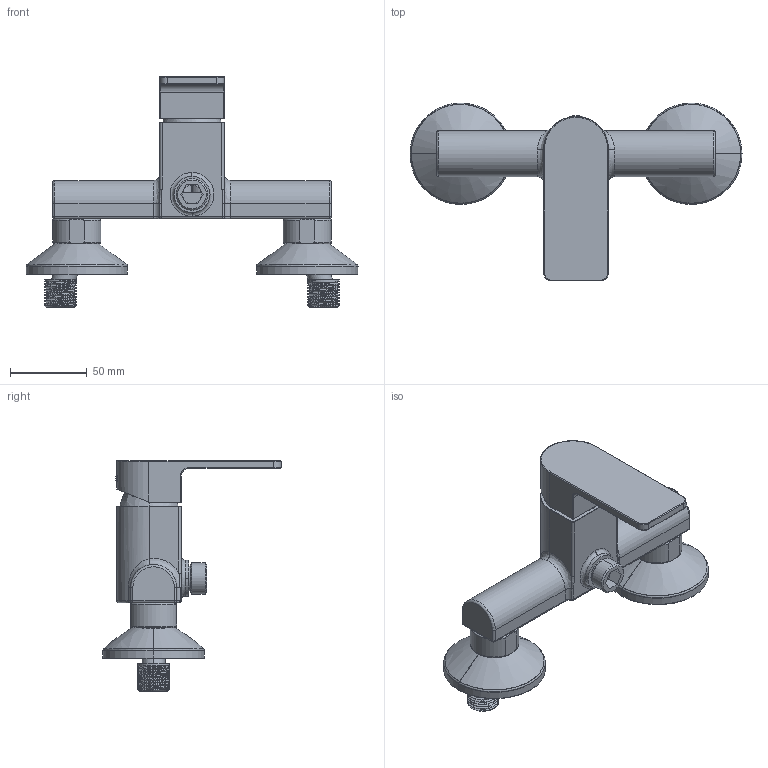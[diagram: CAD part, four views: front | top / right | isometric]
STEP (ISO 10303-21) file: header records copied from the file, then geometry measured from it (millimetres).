
FILE_DESCRIPTION (( 'STEP AP203' ), '1' );
FILE_NAME ('TEO23.STEP', '2016-11-10T08:19:20', ( '' ), ( '' ), 'SwSTEP 2.0', 'SolidWorks 2014', '' );
FILE_SCHEMA (( 'CONFIG_CONTROL_DESIGN' ));
Length unit declared in the file: millimetre
Products named in the file (40): N19-G_1-1; N22-B03_1; N16-E_1-1; N16-A; N22-B01_1; N19-G; N31-G; N22-B03; N16-E; 143717-01; 143778-H-1; N16-E_1; N35HBS-KGF-2; N35HBS-KGF-3; 143717-01-1; N31-G-1; S278; N22-B02; N22-B01; P71-1; N22-B02_1; 143778-H; SC5-4SN-2; N19-G-1; N35HBS-KGF; N35HBS-KGF-1; N16-E-1; N19-G_1; S278-1; TEO23; N16-A-1
Assembly tree (39 placements, depth 3):
  TEO23
    143717-01
      143717-01
      143717-01-1
    N16-A
      N16-A
      N16-A-1
    N16-E
      N16-E
      N16-E-1
    N19-G
      N19-G
      N19-G-1
    N22-B01
    N22-B02
    N22-B03
    N16-E_1
      N16-E_1
      N16-E_1-1
    N19-G_1
      N19-G_1
      N19-G_1-1
    N22-B01_1
    N22-B02_1
    N22-B03_1
    N35HBS-KGF
      N35HBS-KGF-1
      N35HBS-KGF-2
      N35HBS-KGF-3
    N31-G
      N31-G
      N31-G-1
    S278
      S278
      S278-1
    143778-H
      143778-H
      143778-H-1
    SC5-4SN-2
    P71-1
Bounding box: 216 x 115.95 x 150.1 mm (x, y, z)
Volume: 179378.2 mm3; surface area: 145090.7 mm2
Topology: 20 solids, 34 shells, 1344 faces, 3372 edges, 2118 vertices
Faces by surface type: cylinder 559, plane 399, bspline 244, cone 142
Entity records: 71749 total; most frequent: CARTESIAN_POINT 37148, ORIENTED_EDGE 6650, DIRECTION 5973, EDGE_CURVE 3354, AXIS2_PLACEMENT_3D 2328, VERTEX_POINT 2118, EDGE_LOOP 1448, FACE_OUTER_BOUND 1344
